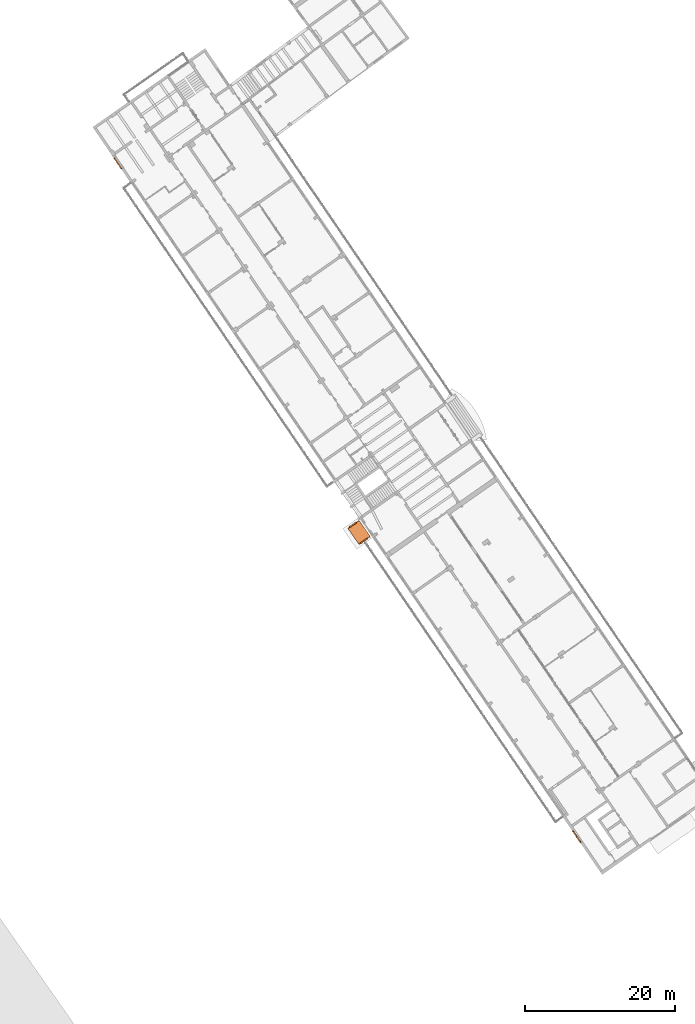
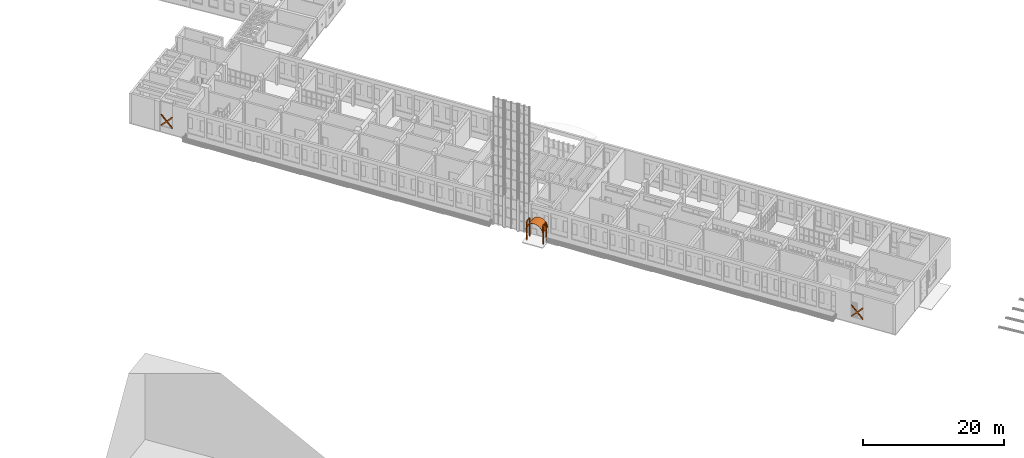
# One storey, part 157 of 157: 5 proxies.
"""IFC2X3 building model written with IfcOpenShell, lengths in millimetres."""

from ifc_helpers import new_model, entity, si_unit, converted_unit, derived_unit, direction, frame, frame_2d, origin, origin_2d_with_axis, place, context, subcontext, project, spatial, polyline, circle_curve, parameter, trimmed, segment, composite_curve, outline, extrude, source, transform, mapped, material, type_object, type_shapes, element, save


model = new_model("IFC2X3")

# Units and contexts
model_context = context("Model", 3, precision=0.01, world=origin(), true_north=direction((6.123031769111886e-17, 1.0)))
body_context = subcontext(model_context, "Body", "Model", "MODEL_VIEW")
ifc_project = project(units=[si_unit("LENGTHUNIT", "METRE", prefix="MILLI"), si_unit("AREAUNIT", "SQUARE_METRE"), si_unit("VOLUMEUNIT", "CUBIC_METRE"), converted_unit("PLANEANGLEUNIT", "DEGREE", entity("IfcRatioMeasure", 0.017453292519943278), si_unit("PLANEANGLEUNIT", "RADIAN"), dimensions=[0, 0, 0, 0, 0, 0, 0]), si_unit("MASSUNIT", "GRAM", prefix="KILO"), derived_unit("MASSDENSITYUNIT", [(si_unit("MASSUNIT", "GRAM", prefix="KILO"), 1), (si_unit("LENGTHUNIT", "METRE"), -3)]), derived_unit("MOMENTOFINERTIAUNIT", [(si_unit("LENGTHUNIT", "METRE"), 4)]), si_unit("TIMEUNIT", "SECOND"), si_unit("FREQUENCYUNIT", "HERTZ"), si_unit("THERMODYNAMICTEMPERATUREUNIT", "DEGREE_CELSIUS"), derived_unit("THERMALTRANSMITTANCEUNIT", [(si_unit("MASSUNIT", "GRAM", prefix="KILO"), 1), (si_unit("THERMODYNAMICTEMPERATUREUNIT", "KELVIN"), -1), (si_unit("TIMEUNIT", "SECOND"), -3)]), derived_unit("THERMALCONDUCTANCEUNIT", [(si_unit("MASSUNIT", "GRAM", prefix="KILO"), 1), (si_unit("LENGTHUNIT", "METRE"), 1), (si_unit("THERMODYNAMICTEMPERATUREUNIT", "KELVIN"), -1), (si_unit("TIMEUNIT", "SECOND"), -3)]), derived_unit("VOLUMETRICFLOWRATEUNIT", [(si_unit("LENGTHUNIT", "METRE"), 3), (si_unit("TIMEUNIT", "SECOND"), -1)]), derived_unit("MASSFLOWRATEUNIT", [(si_unit("MASSUNIT", "GRAM", prefix="KILO"), 1), (si_unit("TIMEUNIT", "SECOND"), -1)]), derived_unit("ROTATIONALFREQUENCYUNIT", [(si_unit("TIMEUNIT", "SECOND"), -1)]), si_unit("ELECTRICCURRENTUNIT", "AMPERE"), si_unit("ELECTRICVOLTAGEUNIT", "VOLT"), si_unit("POWERUNIT", "WATT"), converted_unit("FORCEUNIT", "KIP", entity("IfcRatioMeasure", 2.088543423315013e-05), si_unit("FORCEUNIT", "NEWTON"), dimensions=[1, 1, -2, 0, 0, 0, 0]), si_unit("ILLUMINANCEUNIT", "LUX"), si_unit("LUMINOUSFLUXUNIT", "LUMEN"), si_unit("LUMINOUSINTENSITYUNIT", "CANDELA"), derived_unit("USERDEFINED", [(si_unit("MASSUNIT", "GRAM", prefix="KILO"), -1), (si_unit("LENGTHUNIT", "METRE"), -2), (si_unit("TIMEUNIT", "SECOND"), 3), (si_unit("LUMINOUSFLUXUNIT", "LUMEN"), 1)]), derived_unit("USERDEFINED", [(si_unit("MASSUNIT", "GRAM", prefix="KILO"), 1), (si_unit("LENGTHUNIT", "METRE"), 3), (si_unit("TIMEUNIT", "SECOND"), -3), (si_unit("ELECTRICCURRENTUNIT", "AMPERE"), -2)]), derived_unit("USERDEFINED", [(si_unit("LENGTHUNIT", "METRE"), 2), (si_unit("TIMEUNIT", "SECOND"), -2)]), derived_unit("SOUNDPOWERUNIT", [(si_unit("MASSUNIT", "GRAM", prefix="KILO"), 1), (si_unit("LENGTHUNIT", "METRE"), 2), (si_unit("TIMEUNIT", "SECOND"), -3)]), derived_unit("SOUNDPRESSUREUNIT", [(si_unit("MASSUNIT", "GRAM", prefix="KILO"), 1), (si_unit("LENGTHUNIT", "METRE"), -1), (si_unit("TIMEUNIT", "SECOND"), -2)]), derived_unit("LINEARVELOCITYUNIT", [(si_unit("LENGTHUNIT", "METRE"), 1), (si_unit("TIMEUNIT", "SECOND"), -1)]), si_unit("PRESSUREUNIT", "PASCAL"), derived_unit("USERDEFINED", [(si_unit("LENGTHUNIT", "METRE"), -2), (si_unit("MASSUNIT", "GRAM", prefix="KILO"), 1), (si_unit("TIMEUNIT", "SECOND"), -2)]), derived_unit("LINEARFORCEUNIT", [(si_unit("MASSUNIT", "GRAM", prefix="KILO"), 1), (si_unit("LENGTHUNIT", "METRE"), 1), (si_unit("TIMEUNIT", "SECOND"), -2), (si_unit("LENGTHUNIT", "METRE"), -1)]), derived_unit("PLANARFORCEUNIT", [(si_unit("MASSUNIT", "GRAM", prefix="KILO"), 1), (si_unit("LENGTHUNIT", "METRE"), 1), (si_unit("TIMEUNIT", "SECOND"), -2), (si_unit("LENGTHUNIT", "METRE"), -2)]), derived_unit("SPECIFICHEATCAPACITYUNIT", [(si_unit("LENGTHUNIT", "METRE"), 2), (si_unit("TIMEUNIT", "SECOND"), -2), (si_unit("THERMODYNAMICTEMPERATUREUNIT", "KELVIN"), -1)]), derived_unit("VAPORPERMEABILITYUNIT", [(si_unit("TIMEUNIT", "SECOND"), 1), (si_unit("LENGTHUNIT", "METRE"), -1)]), derived_unit("DYNAMICVISCOSITYUNIT", [(si_unit("MASSUNIT", "GRAM", prefix="KILO"), 1), (si_unit("LENGTHUNIT", "METRE"), -1), (si_unit("TIMEUNIT", "SECOND"), -1)]), derived_unit("THERMALEXPANSIONCOEFFICIENTUNIT", [(si_unit("THERMODYNAMICTEMPERATUREUNIT", "KELVIN"), -1)])], contexts=[model_context])

# Site, building, storey
site_placement = place(None, frame((0.0, 0.0, 0.0), z_axis=(0.0, 0.0, 1.0), x_axis=(0.8191520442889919, 0.5735764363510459, 0.0)))
site = spatial("IfcSite", under=ifc_project, at=site_placement, Name="Default", CompositionType="ELEMENT")
building_placement = place(site_placement, origin())
building = spatial("IfcBuilding", under=site, at=building_placement, CompositionType="ELEMENT")
storey_placement = place(building_placement, origin())
storey = spatial("IfcBuildingStorey", under=building, at=storey_placement, Name="1.EG +0.00", CompositionType="ELEMENT", Elevation=-4.331468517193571e-12)

# Proxies
ifc_material_1 = material(Name="Default")
building_element_proxy_type_1 = type_object("IfcBuildingElementProxyType", Name="X_BRACE:X_BRACE", PredefinedType="NOTDEFINED", material=ifc_material_1)
shared_shape_1 = source(origin(), body_context, "Body", "SweptSolid", [
    extrude(outline(polyline([(-52.068857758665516, 200.0), (-812.0688577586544, 1000.0), (-950.0, 1000.0), (-950.0, 854.8093239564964), (-137.93114224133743, 0.0), (-950.0, -854.8093239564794), (-950.0, -1000.0), (-812.0688577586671, -1000.0), (-52.068857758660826, -200.0), (52.068857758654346, -200.0), (812.0688577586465, -1000.0), (950.0, -1000.0), (950.0, -854.8093239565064), (137.93114224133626, 0.0), (950.0, 854.8093239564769), (950.0, 1000.0), (812.0688577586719, 1000.0), (52.0688577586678, 200.0), (-52.068857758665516, 200.0)])), frame((0.0, -60.0, 1000.0), z_axis=(0.0, -1.0, 0.0), x_axis=(1.0, 0.0, 0.0)), (0.0, 0.0, -1.0), 120.0),
])
type_shapes(building_element_proxy_type_1, [shared_shape_1])
for number, where, z_axis, x_axis, name in (
    (1, (-222383.78239217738, 167122.1928945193, 1000.0), (0.0, 0.0, 1.0), (0.012910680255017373, 0.9999166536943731, 0.0), "X_BRACE:X_BRACE"),
    (2, (-223770.7982645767, 58171.0213222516, 1000.0), (0.0, 0.0, 1.0), (0.012910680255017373, 0.9999166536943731, 0.0), "X_BRACE:X_BRACE"),
):
    element("IfcBuildingElementProxy", number, at=place(storey_placement, frame(where, z_axis=z_axis, x_axis=x_axis)), inside=storey, type_object=building_element_proxy_type_1, material=ifc_material_1, Name=name, ObjectType="X_BRACE:X_BRACE", context=body_context, shape_type="MappedRepresentation", body=[
        mapped(shared_shape_1, transform((0.0, 0.0, 0.0), scale=1.0)),
    ])
ifc_material_2 = material(Name="<Unnamed>")
building_element_proxy_type_2 = type_object("IfcBuildingElementProxyType", Name="Eingang_West_1:Eingang_West_1", PredefinedType="NOTDEFINED", material=ifc_material_2)
shared_shape_2 = source(origin(), body_context, "Body", "SweptSolid", [
    extrude(outline(composite_curve([segment(polyline([(-2116.6666666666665, -450.0), (-2116.666666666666, -550.0)]), True, "CONTINUOUS"), segment(polyline([(-2116.666666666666, -550.0), (933.3333333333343, -550.0)]), True, "CONTINUOUS"), segment(trimmed(circle_curve(frame_2d((933.3333333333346, -250.0), x_axis=(0.0, 1.0)), 299.9999999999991), [parameter(179.9999999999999)], [parameter(270.00000000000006)], True, "PARAMETER"), True, "CONTINUOUS"), segment(polyline([(1233.3333333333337, -250.0), (1233.3333333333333, 250.0)]), True, "CONTINUOUS"), segment(trimmed(circle_curve(frame_2d((933.3333333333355, 250.0), x_axis=(0.0, 1.0)), 299.99999999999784), [parameter(270.00000000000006)], [parameter(5.088887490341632e-14)], True, "PARAMETER"), True, "CONTINUOUS"), segment(polyline([(933.3333333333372, 550.0), (-2116.666666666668, 550.0)]), True, "CONTINUOUS"), segment(polyline([(-2116.666666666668, 550.0), (-2116.666666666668, 450.0)]), True, "CONTINUOUS"), segment(polyline([(-2116.666666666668, 450.0), (933.3333333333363, 450.0)]), True, "CONTINUOUS"), segment(trimmed(circle_curve(frame_2d((933.3333333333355, 250.0), x_axis=(0.0, 1.0)), 199.99999999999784), [parameter(269.9999999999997)], [parameter(359.9999999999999)], True, "PARAMETER"), False, "CONTINUOUS"), segment(polyline([(1133.3333333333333, 250.0), (1133.3333333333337, -250.0)]), True, "CONTINUOUS"), segment(trimmed(circle_curve(frame_2d((933.3333333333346, -250.0), x_axis=(0.0, 1.0)), 199.99999999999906), [parameter(180.00000000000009)], [parameter(269.9999999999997)], True, "PARAMETER"), False, "CONTINUOUS"), segment(polyline([(933.3333333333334, -450.0), (-2116.666666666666, -450.0)]), True, "CONTINUOUS")], self_intersect=False)), frame((0.0, 1038.2705734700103, 2116.6666666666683), z_axis=(0.0, -1.0, 0.0), x_axis=(0.0, 0.0, 1.0)), (0.0, 0.0, -1.0), 100.0),
])
type_shapes(building_element_proxy_type_2, [shared_shape_2])
for number, where, z_axis, x_axis, name in (
    (3, (-224377.3557642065, 110584.62948782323, 0.0), (0.0, 0.0, 1.0), (-1.0, 0.0, 0.0), "Eingang_West_1:Eingang_West_1"),
    (4, (-224410.38503702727, 107985.6635530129, 0.0), (0.0, 0.0, 1.0), (-1.0, 0.0, 0.0), "Eingang_West_1:Eingang_West_1"),
):
    element("IfcBuildingElementProxy", number, at=place(storey_placement, frame(where, z_axis=z_axis, x_axis=x_axis)), inside=storey, type_object=building_element_proxy_type_2, material=ifc_material_2, Name=name, ObjectType="Eingang_West_1:Eingang_West_1", context=body_context, shape_type="MappedRepresentation", body=[
        mapped(shared_shape_2, transform((0.0, 0.0, 0.0), scale=1.0)),
    ])
building_element_proxy_type_3 = type_object("IfcBuildingElementProxyType", Name="Eingang_West_2:Eingang_West_2", PredefinedType="NOTDEFINED", material=ifc_material_1)
shared_shape_3 = source(origin(), body_context, "Body", "SweptSolid", [
    extrude(outline(composite_curve([segment(trimmed(circle_curve(origin_2d_with_axis(), 1320.0000000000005), [parameter(2.544443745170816e-13)], [parameter(179.9999999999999)], True, "PARAMETER"), True, "CONTINUOUS"), segment(polyline([(-1320.0, 0.0), (-1300.0, 0.0)]), True, "CONTINUOUS"), segment(trimmed(circle_curve(origin_2d_with_axis(), 1300.0000000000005), [parameter(6.106664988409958e-13)], [parameter(179.99999999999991)], True, "PARAMETER"), False, "CONTINUOUS"), segment(polyline([(1300.0, 0.0), (1320.0, 0.0)]), True, "CONTINUOUS")], self_intersect=False)), frame((0.0, 0.0, 0.0), z_axis=(0.0, 1.0, 0.0), x_axis=(-1.0, 0.0, 0.0)), (0.0, 0.0, 1.0), 1849.9999999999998),
])
type_shapes(building_element_proxy_type_3, [shared_shape_3])
proxy_placement = place(storey_placement, frame((-223359.84315238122, 108196.87594694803, 2100.0), z_axis=(0.0, 0.0, 1.0), x_axis=(0.0, 1.0, 0.0)))
element("IfcBuildingElementProxy", 5, at=proxy_placement, inside=storey, type_object=building_element_proxy_type_3, material=ifc_material_1, Name="Eingang_West_2:Eingang_West_2", ObjectType="Eingang_West_2:Eingang_West_2", context=body_context, shape_type="MappedRepresentation", body=[
    mapped(shared_shape_3, transform((0.0, 0.0, 0.0), scale=1.0)),
])

save(model, "model.ifc")
